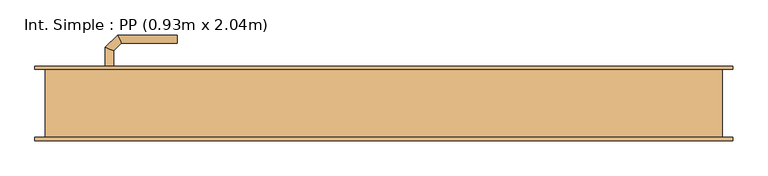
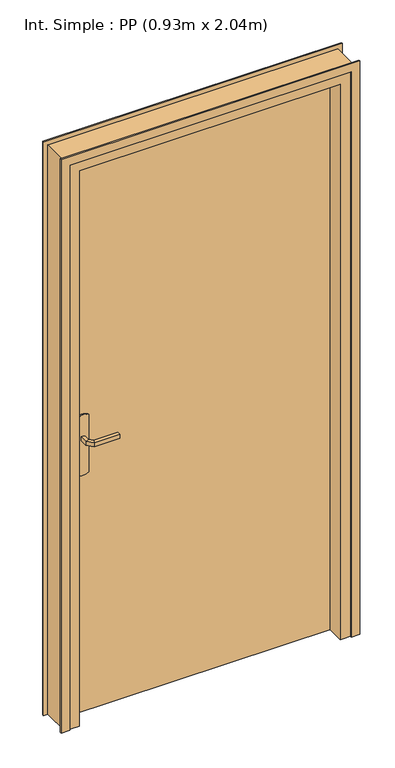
"""IFC4 building model written with IfcOpenShell, lengths in millimetres: door geometry, Int. Simple : PP (0.93m x 2.04m)."""

from ifc_helpers import new_model, si_unit, point, frame, frame_2d, origin, origin_with_axes, place, context, project, spatial, polyline, circle_curve, ellipse_curve, trimmed, segment, composite_curve, outline, extrude, faceted_brep, source, transform, mapped, element, save
from ifc_brep_helpers import plane_surface, cylinder_surface, advanced_brep


def int_simple_pp_0_93m_x_2_04m_68d1b237(model_context):
    return source(origin(), model_context, "Body", "SolidModel", [
        extrude(outline(composite_curve([segment(trimmed(circle_curve(frame_2d((904.6410162, -440.0)), 40.0), [point((870.0, -460.0))], [point((870.0, -420.0))], False, "CARTESIAN"), True, "CONTINUOUS"), segment(polyline([(870.0, -420.0), (1080.0, -420.0)]), True, "CONTINUOUS"), segment(trimmed(circle_curve(frame_2d((1045.3589838, -440.0)), 40.0), [point((1080.0, -420.0))], [point((1080.0, -460.0))], False, "CARTESIAN"), True, "CONTINUOUS"), segment(polyline([(1080.0, -460.0), (870.0, -460.0)]), True, "CONTINUOUS")], self_intersect=False)), frame((0.0, 50.0, 0.0), z_axis=(0.0, 1.0, 0.0), x_axis=(0.0, 0.0, 1.0)), (0.0, 0.0, 1.0), 5.0),
        extrude(outline(composite_curve([segment(trimmed(circle_curve(frame_2d((1045.3589838, -440.0)), 40.0), [point((1080.0, -420.0))], [point((1080.0, -460.0))], False, "CARTESIAN"), True, "CONTINUOUS"), segment(polyline([(1080.0, -460.0), (870.0, -460.0)]), True, "CONTINUOUS"), segment(trimmed(circle_curve(frame_2d((904.6410162, -440.0)), 40.0), [point((870.0, -460.0))], [point((870.0, -420.0))], False, "CARTESIAN"), True, "CONTINUOUS"), segment(polyline([(870.0, -420.0), (1080.0, -420.0)]), True, "CONTINUOUS")], self_intersect=False)), frame((0.0, 5.0, 0.0), z_axis=(0.0, 1.0, 0.0), x_axis=(0.0, 0.0, 1.0)), (0.0, 0.0, 1.0), 5.0),
        advanced_brep(
        [(-446.0, 55.0, 1007.0), (-446.0, 55.0, 993.0), (-434.0, 55.0, 993.0), (-434.0, 55.0, 1007.0), (-434.0, 77.680388, 1007.0), (-446.0, 82.6509507, 1007.0), (-434.0, 77.680388, 993.0), (-446.0, 82.6509507, 993.0), (-422.6522273, 89.0281607, 1007.0), (-427.62279, 101.0281607, 1007.0), (-422.6522273, 89.0281607, 993.0), (-427.62279, 101.0281607, 993.0), (-339.9813594, 101.0281607, 1007.0), (-339.9813594, 89.0281607, 1007.0), (-339.9813594, 89.0281607, 993.0), (-339.9813594, 101.0281607, 993.0)],
        [
            (0, 1),
            (1, 2, circle_curve(frame((-440.0, 55.0, 1013.0457722), z_axis=(0.0, -1.0, 0.0), x_axis=(1.0, 0.0, 0.0)), 20.9244589)),
            (2, 3),
            (3, 0, circle_curve(frame((-440.0, 55.0, 986.9542278), z_axis=(0.0, -1.0, 0.0), x_axis=(1.0, 0.0, 0.0)), 20.9244589)),
            (3, 4),
            (4, 5, ellipse_curve(frame((-440.0, 80.1656693, 986.9542278), z_axis=(-0.3826834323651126, -0.9238795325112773, 0.0), x_axis=(0.9238795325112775, -0.38268343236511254, 0.0)), 22.6484711, 20.9244589)),
            (5, 0),
            (2, 6),
            (6, 4),
            (1, 7),
            (7, 6, ellipse_curve(frame((-440.0, 80.1656693, 1013.0457722), z_axis=(-0.3826834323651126, -0.9238795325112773, 0.0), x_axis=(0.9238795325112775, -0.38268343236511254, 0.0)), 22.6484711, 20.9244589)),
            (5, 7),
            (4, 8),
            (8, 9, ellipse_curve(frame((-425.1375086, 95.0281607, 986.9542278), z_axis=(-0.9238795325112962, -0.38268343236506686, 0.0), x_axis=(0.3826834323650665, -0.9238795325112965, 0.0)), 22.6484711, 20.9244589)),
            (9, 5),
            (6, 10),
            (10, 8),
            (7, 11),
            (11, 10, ellipse_curve(frame((-425.1375086, 95.0281607, 1013.0457722), z_axis=(-0.9238795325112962, -0.38268343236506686, 0.0), x_axis=(0.3826834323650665, -0.9238795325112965, 0.0)), 22.6484711, 20.9244589)),
            (9, 11),
            (12, 13, circle_curve(frame((-339.9813594, 95.0281607, 986.9542278), z_axis=(1.0, 0.0, 0.0), x_axis=(0.0, -1.0, 0.0)), 20.9244589)),
            (13, 14),
            (14, 15, circle_curve(frame((-339.9813594, 95.0281607, 1013.0457722), z_axis=(1.0, 0.0, 0.0), x_axis=(0.0, -1.0, 0.0)), 20.9244589)),
            (15, 12),
            (8, 13),
            (12, 9),
            (10, 14),
            (11, 15),
        ],
        [
            plane_surface(frame((-449.2195445, 55.0, 1000.0), z_axis=(0.0, -1.0, 0.0), x_axis=(0.0, 0.0, -1.0))),
            cylinder_surface(frame((-440.0, 55.0, 986.9542278), z_axis=(0.0, -1.0, 0.0), x_axis=(1.0, 0.0, 0.0)), 20.9244589),
            plane_surface(frame((-434.0, 55.0, 1007.0), z_axis=(1.0, 0.0, 0.0), x_axis=(0.0, 1.0, 0.0))),
            cylinder_surface(frame((-440.0, 55.0, 1013.0457722), z_axis=(0.0, -1.0, 0.0), x_axis=(1.0, 0.0, 0.0)), 20.9244589),
            plane_surface(frame((-446.0, 55.0, 993.0), z_axis=(-1.0, 0.0, 0.0), x_axis=(0.0, 1.0, 0.0))),
            cylinder_surface(frame((-440.0, 80.1656693, 986.9542278), z_axis=(-0.7071067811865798, -0.7071067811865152, 0.0), x_axis=(0.7071067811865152, -0.7071067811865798, 0.0)), 20.9244589),
            plane_surface(frame((-434.0, 77.680388, 1007.0), z_axis=(0.7071067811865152, -0.7071067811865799, 0.0), x_axis=(0.7071067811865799, 0.7071067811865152, 0.0))),
            cylinder_surface(frame((-440.0, 80.1656693, 1013.0457722), z_axis=(-0.7071067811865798, -0.7071067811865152, 0.0), x_axis=(0.7071067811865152, -0.7071067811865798, 0.0)), 20.9244589),
            plane_surface(frame((-446.0, 82.6509507, 993.0), z_axis=(-0.7071067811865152, 0.7071067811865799, 0.0), x_axis=(0.7071067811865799, 0.7071067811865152, 0.0))),
            plane_surface(frame((-339.9813594, 95.0281607, 990.7804555), z_axis=(1.0, 0.0, 0.0), x_axis=(0.0, -1.0, 0.0))),
            cylinder_surface(frame((-425.1375086, 95.0281607, 986.9542278), z_axis=(-1.0, 0.0, 0.0), x_axis=(0.0, -1.0, 0.0)), 20.9244589),
            plane_surface(frame((-422.6522273, 89.0281607, 1007.0), z_axis=(0.0, -1.0, 0.0), x_axis=(1.0, 0.0, 0.0))),
            cylinder_surface(frame((-425.1375086, 95.0281607, 1013.0457722), z_axis=(-1.0, 0.0, 0.0), x_axis=(0.0, -1.0, 0.0)), 20.9244589),
            plane_surface(frame((-427.62279, 101.0281607, 993.0), z_axis=(0.0, 1.0, 0.0), x_axis=(1.0, 0.0, 0.0))),
        ],
        [
            (0, [[1, 2, 3, 4]]),
            (1, [[5, 6, 7, -4]]),
            (2, [[8, 9, -5, -3]]),
            (3, [[10, 11, -8, -2]]),
            (4, [[-7, 12, -10, -1]]),
            (5, [[13, 14, 15, -6]]),
            (6, [[16, 17, -13, -9]]),
            (7, [[18, 19, -16, -11]]),
            (8, [[-15, 20, -18, -12]]),
            (9, [[21, 22, 23, 24]]),
            (10, [[25, -21, 26, -14]]),
            (11, [[27, -22, -25, -17]]),
            (12, [[28, -23, -27, -19]]),
            (13, [[-26, -24, -28, -20]]),
        ],
    ),
        advanced_brep(
        [(-434.0, 5.0, 993.0), (-446.0, 5.0, 993.0), (-446.0, 5.0, 1007.0), (-434.0, 5.0, 1007.0), (-434.0, -17.4852045, 1007.0), (-434.0, -17.4852045, 993.0), (-446.0, -22.4557673, 1007.0), (-446.0, -22.4557673, 993.0), (-422.5147186, -28.9704859, 1007.0), (-422.5147186, -28.9704859, 993.0), (-427.4852814, -40.9704859, 1007.0), (-427.4852814, -40.9704859, 993.0), (-339.9542163, -28.9704859, 993.0), (-339.9542163, -28.9704859, 1007.0), (-339.9542163, -40.9704859, 1007.0), (-339.9542163, -40.9704859, 993.0)],
        [
            (0, 1, circle_curve(frame((-440.0, 5.0, 1013.0457722), z_axis=(0.0, 1.0, 0.0), x_axis=(-1.0, 0.0, 0.0)), 20.9244589)),
            (1, 2),
            (2, 3, circle_curve(frame((-440.0, 5.0, 986.9542278), z_axis=(0.0, 1.0, 0.0), x_axis=(-1.0, 0.0, 0.0)), 20.9244589)),
            (3, 0),
            (3, 4),
            (4, 5),
            (5, 0),
            (2, 6),
            (6, 4, ellipse_curve(frame((-440.0, -19.9704859, 986.9542278), z_axis=(-0.3826834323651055, 0.9238795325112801, 0.0), x_axis=(0.9238795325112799, 0.3826834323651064, 0.0)), 22.6484711, 20.9244589)),
            (1, 7),
            (7, 6),
            (5, 7, ellipse_curve(frame((-440.0, -19.9704859, 1013.0457722), z_axis=(-0.3826834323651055, 0.9238795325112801, 0.0), x_axis=(0.9238795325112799, 0.3826834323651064, 0.0)), 22.6484711, 20.9244589)),
            (4, 8),
            (8, 9),
            (9, 5),
            (6, 10),
            (10, 8, ellipse_curve(frame((-425.0, -34.9704859, 986.9542278), z_axis=(-0.9238795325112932, 0.382683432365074, 0.0), x_axis=(0.3826834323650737, 0.9238795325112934, 0.0)), 22.6484711, 20.9244589)),
            (7, 11),
            (11, 10),
            (9, 11, ellipse_curve(frame((-425.0, -34.9704859, 1013.0457722), z_axis=(-0.9238795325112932, 0.382683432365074, 0.0), x_axis=(0.3826834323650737, 0.9238795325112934, 0.0)), 22.6484711, 20.9244589)),
            (12, 13),
            (13, 14, circle_curve(frame((-339.9542163, -34.9704859, 986.9542278), z_axis=(1.0, 0.0, 0.0), x_axis=(0.0, -1.0, 0.0)), 20.9244589)),
            (14, 15),
            (15, 12, circle_curve(frame((-339.9542163, -34.9704859, 1013.0457722), z_axis=(1.0, 0.0, 0.0), x_axis=(0.0, -1.0, 0.0)), 20.9244589)),
            (8, 13),
            (12, 9),
            (10, 14),
            (11, 15),
        ],
        [
            plane_surface(frame((-449.2195445, 5.0, 1000.0), z_axis=(0.0, 1.0, 0.0), x_axis=(0.0, 0.0, 1.0))),
            plane_surface(frame((-434.0, 5.0, 993.0), z_axis=(1.0, 0.0, 0.0), x_axis=(0.0, -1.0, 0.0))),
            cylinder_surface(frame((-440.0, 5.0, 986.9542278), z_axis=(0.0, 1.0, 0.0), x_axis=(-1.0, 0.0, 0.0)), 20.9244589),
            plane_surface(frame((-446.0, 5.0, 1007.0), z_axis=(-1.0, 0.0, 0.0), x_axis=(0.0, -1.0, 0.0))),
            cylinder_surface(frame((-440.0, 5.0, 1013.0457722), z_axis=(0.0, 1.0, 0.0), x_axis=(-1.0, 0.0, 0.0)), 20.9244589),
            plane_surface(frame((-434.0, -17.4852045, 993.0), z_axis=(0.7071067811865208, 0.7071067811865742, 0.0), x_axis=(0.7071067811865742, -0.7071067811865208, 0.0))),
            cylinder_surface(frame((-440.0, -19.9704859, 986.9542278), z_axis=(-0.7071067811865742, 0.7071067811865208, 0.0), x_axis=(-0.7071067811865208, -0.7071067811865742, 0.0)), 20.9244589),
            plane_surface(frame((-446.0, -22.4557673, 1007.0), z_axis=(-0.7071067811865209, -0.7071067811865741, 0.0), x_axis=(0.7071067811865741, -0.7071067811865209, 0.0))),
            cylinder_surface(frame((-440.0, -19.9704859, 1013.0457722), z_axis=(-0.7071067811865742, 0.7071067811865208, 0.0), x_axis=(-0.7071067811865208, -0.7071067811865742, 0.0)), 20.9244589),
            plane_surface(frame((-339.9542163, -34.9704859, 990.7804555), z_axis=(1.0, 0.0, 0.0), x_axis=(0.0, -1.0, 0.0))),
            plane_surface(frame((-422.5147186, -28.9704859, 993.0), z_axis=(0.0, 1.0, 0.0), x_axis=(1.0, 0.0, 0.0))),
            cylinder_surface(frame((-425.0, -34.9704859, 986.9542278), z_axis=(-1.0, 0.0, 0.0), x_axis=(0.0, -1.0, 0.0)), 20.9244589),
            plane_surface(frame((-427.4852814, -40.9704859, 1007.0), z_axis=(0.0, -1.0, 0.0), x_axis=(1.0, 0.0, 0.0))),
            cylinder_surface(frame((-425.0, -34.9704859, 1013.0457722), z_axis=(-1.0, 0.0, 0.0), x_axis=(0.0, -1.0, 0.0)), 20.9244589),
        ],
        [
            (0, [[1, 2, 3, 4]]),
            (1, [[5, 6, 7, -4]]),
            (2, [[8, 9, -5, -3]]),
            (3, [[10, 11, -8, -2]]),
            (4, [[-7, 12, -10, -1]]),
            (5, [[13, 14, 15, -6]]),
            (6, [[16, 17, -13, -9]]),
            (7, [[18, 19, -16, -11]]),
            (8, [[-15, 20, -18, -12]]),
            (9, [[21, 22, 23, 24]]),
            (10, [[25, -21, 26, -14]]),
            (11, [[27, -22, -25, -17]]),
            (12, [[28, -23, -27, -19]]),
            (13, [[-26, -24, -28, -20]]),
        ],
    ),
        extrude(outline(polyline([(-500.0, 10.0), (-500.0, 50.0), (430.0, 50.0), (430.0, 10.0), (-500.0, 10.0)])), origin_with_axes(), (0.0, 0.0, 1.0), 2040.0),
        faceted_brep([(-535.0, 50.0, 0.0), (-500.0, 50.0, 0.0), (-500.0, 10.0, 0.0), (-485.0, 10.0, 0.0), (-485.0, -50.0, 0.0), (-535.0, -50.0, 0.0), (-535.0, -50.0, 2075.0), (-535.0, 50.0, 2075.0), (-485.0, -50.0, 2025.0), (415.0, -50.0, 2025.0), (415.0, -50.0, 0.0), (465.0, -50.0, 0.0), (465.0, -50.0, 2075.0), (-485.0, 10.0, 2025.0), (-500.0, 10.0, 2040.0), (430.0, 10.0, 2040.0), (430.0, 10.0, 0.0), (415.0, 10.0, 0.0), (415.0, 10.0, 2025.0), (-500.0, 50.0, 2040.0), (465.0, 50.0, 2075.0), (465.0, 50.0, 0.0), (430.0, 50.0, 0.0), (430.0, 50.0, 2040.0)], [[[0, 1, 2, 3, 4, 5]], [[5, 6, 7, 0]], [[4, 8, 9, 10, 11, 12, 6, 5]], [[3, 13, 8, 4]], [[2, 14, 15, 16, 17, 18, 13, 3]], [[1, 19, 14, 2]], [[0, 7, 20, 21, 22, 23, 19, 1]], [[12, 11, 21, 20]], [[21, 11, 10, 17, 16, 22]], [[18, 17, 10, 9]], [[23, 22, 16, 15]], [[6, 12, 20, 7]], [[13, 18, 9, 8]], [[19, 23, 15, 14]]]),
        extrude(outline(polyline([(0.0, -520.0), (2060.0, -520.0), (2060.0, 450.0), (0.0, 450.0), (0.0, 480.0), (2090.0, 480.0), (2090.0, -550.0), (0.0, -550.0), (0.0, -520.0)])), frame((0.0, 50.0, 0.0), z_axis=(0.0, 1.0, 0.0), x_axis=(0.0, 0.0, 1.0)), (0.0, 0.0, 1.0), 5.0),
        extrude(outline(polyline([(0.0, -520.0), (2060.0, -520.0), (2060.0, 450.0), (0.0, 450.0), (0.0, 480.0), (2090.0, 480.0), (2090.0, -550.0), (0.0, -550.0), (0.0, -520.0)])), frame((0.0, -55.0, 0.0), z_axis=(0.0, 1.0, 0.0), x_axis=(0.0, 0.0, 1.0)), (0.0, 0.0, 1.0), 5.0),
    ])


if __name__ == "__main__":
    model = new_model("IFC4")
    model_context = context("Model", 3, world=origin())
    ifc_project = project(units=[si_unit("LENGTHUNIT", "METRE", prefix="MILLI")], contexts=[model_context])
    site = spatial("IfcSite", under=ifc_project)
    building = spatial("IfcBuilding", under=site)
    placement = place(None, origin())
    int_simple_pp_0_93m_x_2_04m_shape = int_simple_pp_0_93m_x_2_04m_68d1b237(model_context)
    element("IfcDoor", 1, ObjectType="Int. Simple : PP (0.93m x 2.04m)", at=placement, inside=building, context=model_context, shape_type="MappedRepresentation", body=[
        mapped(int_simple_pp_0_93m_x_2_04m_shape, transform((0.0, 0.0, 0.0), x_axis=(1.0, 0.0, 0.0), y_axis=(0.0, 1.0, 0.0), z_axis=(0.0, 0.0, 1.0))),
    ])
    save(model, "model.ifc")
